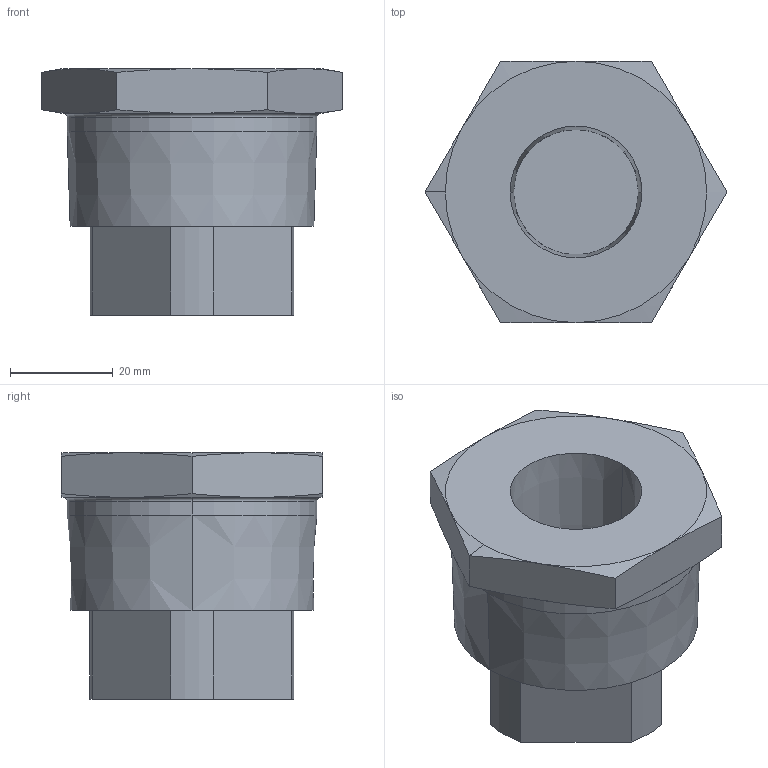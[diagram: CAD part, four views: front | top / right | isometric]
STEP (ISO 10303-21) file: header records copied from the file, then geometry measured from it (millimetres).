
FILE_DESCRIPTION (( 'STEP AP203' ), '1' );
FILE_NAME ('.75 BSS.step', '2016-04-22T20:05:59', ( '' ), ( '' ), 'SwSTEP 2.0', 'SolidWorks 2015', '' );
FILE_SCHEMA (( 'CONFIG_CONTROL_DESIGN' ));
Length unit declared in the file: inch
Products named in the file (1): .75 BSS
Bounding box: 58.66 x 50.8 x 47.88 mm (x, y, z)
Volume: 66104.4 mm3; surface area: 13240.8 mm2
Topology: 1 solids, 1 shells, 50 faces, 117 edges, 72 vertices
Faces by surface type: plane 19, cone 18, cylinder 11, torus 2
Entity records: 1574 total; most frequent: CARTESIAN_POINT 360, DIRECTION 241, ORIENTED_EDGE 234, EDGE_CURVE 117, AXIS2_PLACEMENT_3D 97, VERTEX_POINT 72, EDGE_LOOP 53, ADVANCED_FACE 50
